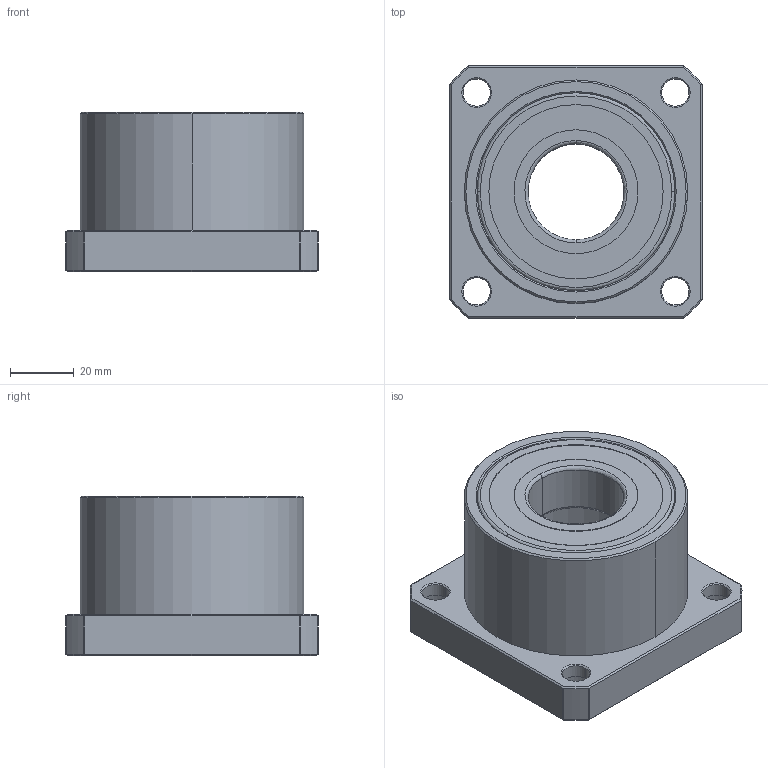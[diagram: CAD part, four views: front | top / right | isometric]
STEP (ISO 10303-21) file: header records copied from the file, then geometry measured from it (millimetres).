
FILE_DESCRIPTION (( 'STEP AP203' ), '1' );
FILE_NAME ('SBD30.STEP', '2009-05-27T08:14:56', ( '冠犁泅' ), ( '俺惯何' ), 'SwSTEP 2.0', 'SolidWorks 2007', '' );
FILE_SCHEMA (( 'CONFIG_CONTROL_DESIGN' ));
Length unit declared in the file: millimetre
Products named in the file (3): SBD30; SBD30_HOUSING_ル遽; 6206zz_ル遽
Assembly tree (3 placements, depth 2):
  SBD30
    SBD30_HOUSING_ル遽
    6206zz_ル遽  x2
Bounding box: 79 x 79 x 50 mm (x, y, z)
Volume: 155666.3 mm3; surface area: 54009.2 mm2
Topology: 25 solids, 25 shells, 203 faces, 494 edges, 268 vertices
Faces by surface type: cylinder 68, bspline 64, plane 37, cone 34
Entity records: 5173 total; most frequent: CARTESIAN_POINT 1689, DIRECTION 676, ORIENTED_EDGE 628, EDGE_CURVE 314, AXIS2_PLACEMENT_3D 279, VERTEX_POINT 204, EDGE_LOOP 170, CIRCLE 158
